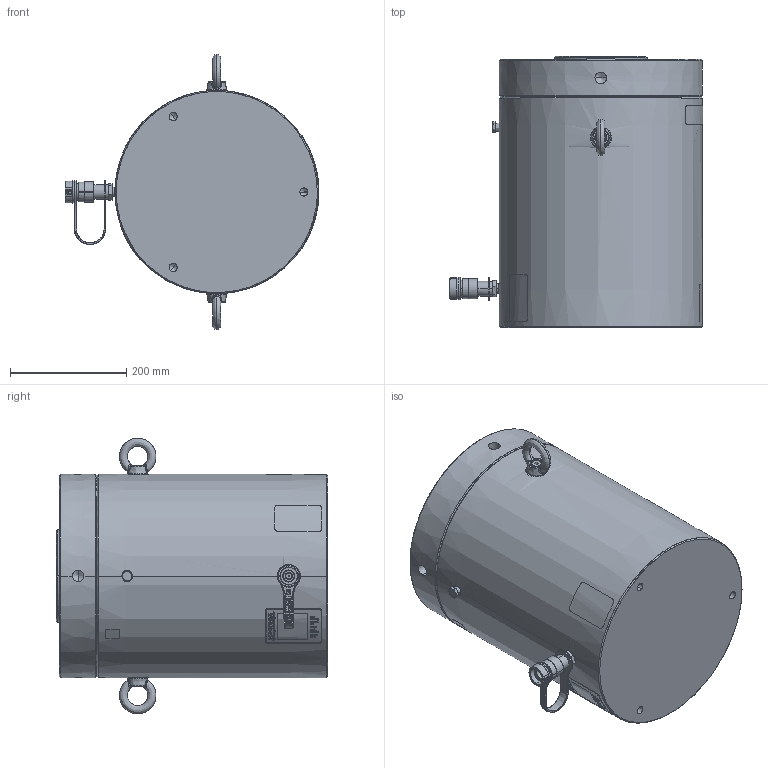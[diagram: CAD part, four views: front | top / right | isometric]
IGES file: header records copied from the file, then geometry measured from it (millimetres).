
Start section:  PTC IGES file: hcl4008.igs
Global section: file name: hcl4008.igs; native system: Creo Parametric by PTC Inc.; preprocessor: 2015290; author: Akhilesh.Subrahmanya; organization: Unknown; date: 20170621.150506; units: millimetre
Bounding box: 436.7 x 467 x 473.98 mm (x, y, z)
Surface area: 1016351.8 mm2 (no closed solid volume)
Topology: 0 solids, 0 shells, 606 faces, 5706 edges, 5688 vertices
Faces by surface type: revolution 359, bspline 242, extrusion 5
